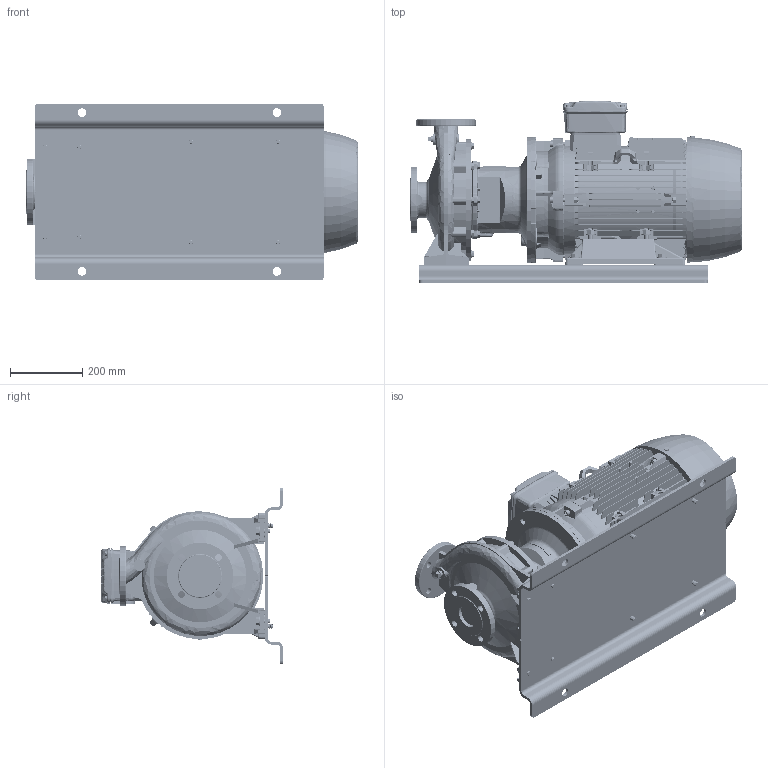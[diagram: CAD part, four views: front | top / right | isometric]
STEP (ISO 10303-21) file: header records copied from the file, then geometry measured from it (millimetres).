
FILE_DESCRIPTION (( 'STEP AP214' ), '1' );
FILE_NAME ('GSD2 50-250_22.0_(180ML)_W21_BP.STEP', '2024-04-30T04:13:41', ( '' ), ( '' ), 'SwSTEP 2.0', 'SolidWorks 2019', '' );
FILE_SCHEMA (( 'AUTOMOTIVE_DESIGN' ));
Length unit declared in the file: millimetre
Products named in the file (15): Parametric bolt and washer_SFT-A305B; Parametric bolt and washer_SFT-A299B; GSD2  50-250_22.0_(180ML)_W21_BP; Parametric bolt_SFT-A299B; Parametric bolt_SFT-A305B; Parametric Flat Washer_M12; 180M_L ALIE3_W21T_B35; 50-250-180M_L; N5S3 GSDA-538 F1-1832929-00
Assembly tree (27 placements, depth 3):
  GSD2  50-250_22.0_(180ML)_W21_BP
    50-250-180M_L
    N5S3 GSDA-538 F1-1832929-00
    Parametric bolt and washer_SFT-A299B
      Parametric bolt_SFT-A299B
      Parametric Flat Washer_M12
    Parametric bolt and washer_SFT-A299B
      Parametric bolt_SFT-A299B
      Parametric Flat Washer_M12
    Parametric bolt and washer_SFT-A299B
      Parametric bolt_SFT-A299B
      Parametric Flat Washer_M12
    Parametric bolt and washer_SFT-A299B
      Parametric bolt_SFT-A299B
      Parametric Flat Washer_M12
    180M_L ALIE3_W21T_B35
    Parametric bolt and washer_SFT-A305B
      Parametric bolt_SFT-A305B
      Parametric Flat Washer_M12
    Parametric bolt and washer_SFT-A305B
      Parametric bolt_SFT-A305B
      Parametric Flat Washer_M12
    Parametric bolt and washer_SFT-A305B
      Parametric bolt_SFT-A305B
      Parametric Flat Washer_M12
    Parametric bolt and washer_SFT-A305B
      Parametric bolt_SFT-A305B
      Parametric Flat Washer_M12
Bounding box: 919.8 x 504.53 x 490 mm (x, y, z)
Volume: 63781111.4 mm3; surface area: 4279609.6 mm2
Topology: 52 solids, 53 shells, 6546 faces, 17053 edges, 11082 vertices
Faces by surface type: plane 3908, cylinder 1231, cone 659, bspline 437, torus 295, sphere 16
Entity records: 234636 total; most frequent: CARTESIAN_POINT 75230, ORIENTED_EDGE 32210, DIRECTION 27379, EDGE_CURVE 16105, VERTEX_POINT 10479, VECTOR 9987, LINE 9987, AXIS2_PLACEMENT_3D 8696
